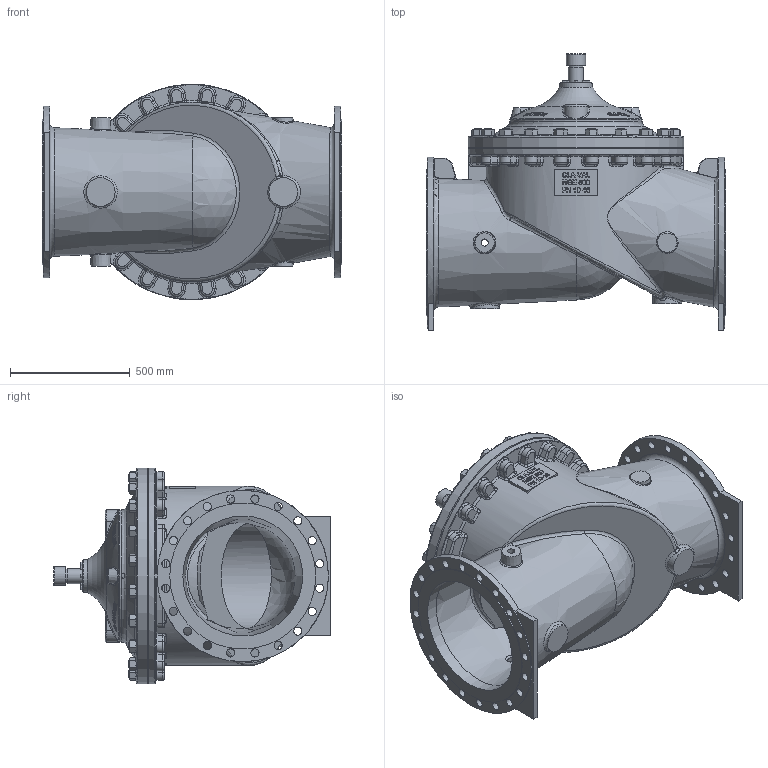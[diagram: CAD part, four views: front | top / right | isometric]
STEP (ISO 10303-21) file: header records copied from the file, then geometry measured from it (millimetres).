
FILE_DESCRIPTION(/* description */ (''),/* implementation_level */ '2;1');
FILE_NAME(/* name */ 'G:\Doc_Liberes\SymbolesCAD\Modeles_3D\FichierSTP\VanneDeBase\NGE500-16RF.stp',/* time_stamp */ '2023-08-17T10:45:51+02:00',/* author */ ('theo'),/* organization */ (''),/* preprocessor_version */ 'ST-DEVELOPER v18.1',/* originating_system */ 'Autodesk Inventor 2022',/* authorisation */ '');
FILE_SCHEMA (('AUTOMOTIVE_DESIGN { 1 0 10303 214 3 1 1 }'));
Products named in the file (1): nge500-16_Simplifier_1
Bounding box: 1250 x 1153.45 x 900 mm (x, y, z)
Volume: 106110238.4 mm3; surface area: 9137419.8 mm2
Topology: 1 solids, 1 shells, 2850 faces, 7418 edges, 4706 vertices
Faces by surface type: plane 1137, cone 936, cylinder 324, bspline 256, torus 130, sphere 67
Full cylindrical faces by diameter (mm): 14.287 x8, 20.637 x8, 22.05 x4, 30.29 x2, 31.75 x40, 34 x40, 35 x20, 60.3 x1, 63.5 x21, 66.68 x1, 80 x1, 120 x2, 134.9 x1, 440 x1, 474 x1, 495 x1, 500 x2, 520.5 x1, 521 x1, 552 x1, 609 x2, 715 x2, 879.25 x1, 881.9 x1, 899 x1, 900 x1
Entity records: 102343 total; most frequent: CARTESIAN_POINT 35443, ORIENTED_EDGE 14822, DIRECTION 13584, EDGE_CURVE 7411, AXIS2_PLACEMENT_3D 6047, VERTEX_POINT 4707, CIRCLE 3409, EDGE_LOOP 3134
